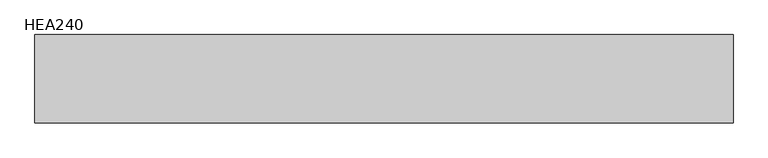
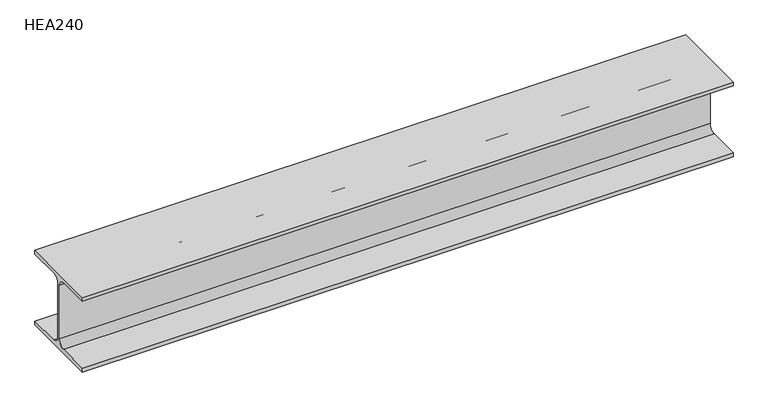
"""IFC4 building model written with IfcOpenShell, lengths in millimetres: beam geometry, HE-A : HEA240."""

from ifc_helpers import new_model, si_unit, point, frame, frame_2d, origin, place, context, project, spatial, polyline, circle_curve, trimmed, segment, composite_curve, outline, extrude, source, transform, mapped, element, save


def hea240_a15198a2(model_context):
    return source(origin(), model_context, "Body", "SweptSolid", [
        extrude(outline(composite_curve([segment(polyline([(120.0, -103.0), (120.0, -115.0), (-120.0, -115.0), (-120.0, -103.0), (-24.75, -103.0)]), True, "CONTINUOUS"), segment(trimmed(circle_curve(frame_2d((-24.75, -82.0)), 21.0), [point((-24.75, -103.0))], [point((-3.75, -82.0))], True, "CARTESIAN"), True, "CONTINUOUS"), segment(polyline([(-3.75, -82.0), (-3.75, 82.0)]), True, "CONTINUOUS"), segment(trimmed(circle_curve(frame_2d((-24.75, 82.0)), 21.0), [point((-3.75, 82.0))], [point((-24.75, 103.0))], True, "CARTESIAN"), True, "CONTINUOUS"), segment(polyline([(-24.75, 103.0), (-120.0, 103.0), (-120.0, 115.0), (120.0, 115.0), (120.0, 103.0), (24.75, 103.0)]), True, "CONTINUOUS"), segment(trimmed(circle_curve(frame_2d((24.75, 82.0)), 21.0), [point((24.75, 103.0))], [point((3.75, 82.0))], True, "CARTESIAN"), True, "CONTINUOUS"), segment(polyline([(3.75, 82.0), (3.75, -82.0)]), True, "CONTINUOUS"), segment(trimmed(circle_curve(frame_2d((24.75, -82.0)), 21.0), [point((3.75, -82.0))], [point((24.75, -103.0))], True, "CARTESIAN"), True, "CONTINUOUS"), segment(polyline([(24.75, -103.0), (120.0, -103.0)]), True, "CONTINUOUS")], self_intersect=False)), frame((-952.3, 0.0, 0.0), z_axis=(1.0, 0.0, 0.0), x_axis=(0.0, 1.0, 0.0)), (0.0, 0.0, 1.0), 1899.9),
    ])


if __name__ == "__main__":
    model = new_model("IFC4")
    model_context = context("Model", 3, world=origin())
    ifc_project = project(units=[si_unit("LENGTHUNIT", "METRE", prefix="MILLI")], contexts=[model_context])
    site = spatial("IfcSite", under=ifc_project)
    building = spatial("IfcBuilding", under=site)
    placement = place(None, origin())
    hea240_shape = hea240_a15198a2(model_context)
    element("IfcBeam", 1, ObjectType="HE-A : HEA240", at=placement, inside=building, context=model_context, shape_type="MappedRepresentation", body=[
        mapped(hea240_shape, transform((0.0, 0.0, 0.0), x_axis=(1.0, 0.0, 0.0), y_axis=(0.0, 1.0, 0.0), z_axis=(0.0, 0.0, 1.0))),
    ])
    save(model, "model.ifc")
